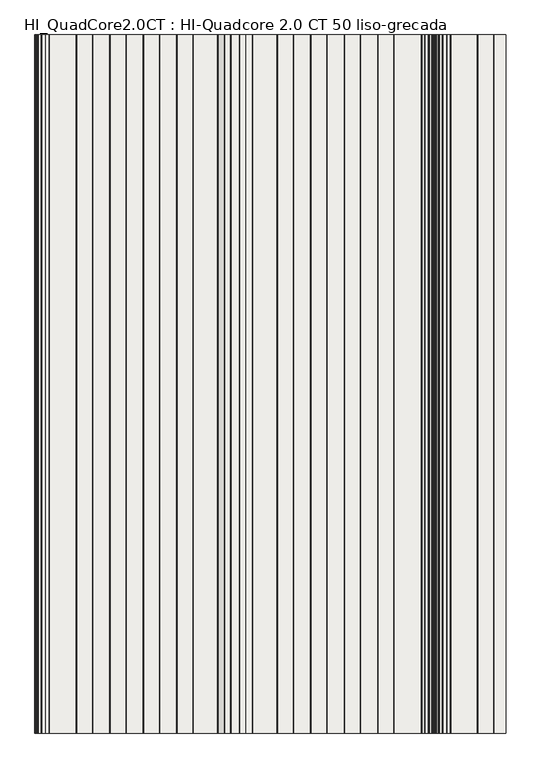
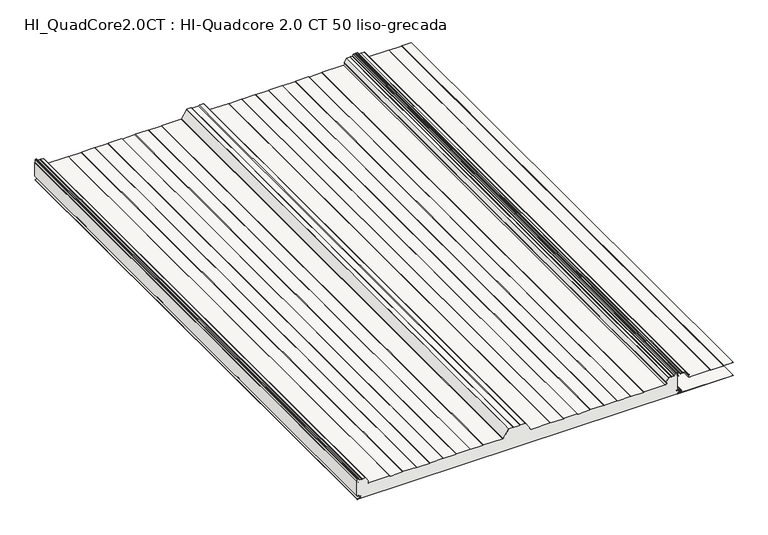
"""IFC4 building model written with IfcOpenShell, lengths in millimetres: slab geometry, HI_QuadCore2.0CT : HI-Quadcore 2.0 CT 50 liso-grecada."""

from ifc_helpers import new_model, si_unit, point, frame, frame_2d, origin, place, context, project, spatial, polyline, circle_curve, trimmed, segment, composite_curve, outline, extrude, source, transform, mapped, element, save
from ifc_brep_helpers import plane_surface, cylinder_surface, revolved_surface, advanced_brep


def hi_quadcore2_0ct_hi_quadcore_2_0_ct_50_liso_grecada_af61549e(model_context):
    return source(origin(), model_context, "Body", "SolidModel", [
        advanced_brep(
        [(1155.1475465, 0.0, 65.7425833), (1151.3824194, 0.0, 67.9163804), (1150.0, 0.0, 67.9163804), (1150.0, 0.0, 16.239302), (1157.510215, 0.0, 16.239302), (1157.510215, 0.0, 15.4391074), (1153.6125693, 0.0, 15.4391074), (1152.4319301, 0.0, 14.2584682), (1153.4276302, 0.0, 13.0866965), (1161.8278581, 0.0, 11.7547343), (1161.7995989, 0.0, 4.4809044), (1151.8467032, 0.0, 2.9844289), (1152.0100062, 0.0, 0.8), (2297.9590685, 0.0, 0.8), (2299.3391392, 0.0, 2.1800708), (2302.5664905, 0.0, 5.8294074), (2310.7843221, 0.0, 6.8264698), (2310.7843299, 0.0, 9.4135286), (2300.8450446, 0.0, 10.6192254), (2297.8324398, 0.0, 14.0237344), (2297.2282701, 0.0, 15.44), (2292.7624398, 0.0, 15.44), (2292.7624398, 0.0, 16.239302), (2300.0, 0.0, 16.239302), (2300.0, 0.0, 67.9163804), (2298.8824194, 0.0, 67.9163804), (2295.1172924, 0.0, 65.7425833), (2294.7172924, 0.0, 66.4354036), (2298.5824194, 0.0, 68.6669358), (2298.5824194, 0.0, 78.1), (2297.4824194, 0.0, 79.2), (2293.8888221, 0.0, 79.2), (2292.8725546, 0.0, 78.5209518), (2291.0157992, 0.0, 74.0383476), (2288.8631598, 0.0, 72.6), (2282.1371875, 0.0, 72.6), (2280.4324194, 0.0, 71.8110374), (2278.7276514, 0.0, 72.6), (2269.4004541, 0.0, 72.6), (2268.4939153, 0.0, 72.1230469), (2259.1558806, 0.0, 58.5361221), (2259.356723, 0.0, 57.0692788), (2260.3070878, 0.0, 56.2744554), (2257.4852773, 0.0, 49.2), (2181.3816122, 0.0, 49.2), (2179.6495614, 0.0, 48.2), (2134.6152775, 0.0, 48.2), (2132.8832267, 0.0, 49.2), (2085.3816122, 0.0, 49.2), (2083.6495614, 0.0, 48.2), (2038.6152775, 0.0, 48.2), (2036.8832267, 0.0, 49.2), (1989.3816122, 0.0, 49.2), (1987.6495614, 0.0, 48.2), (1942.6152775, 0.0, 48.2), (1940.8832267, 0.0, 49.2), (1893.3816122, 0.0, 49.2), (1891.6495614, 0.0, 48.2), (1846.6152775, 0.0, 48.2), (1844.8832267, 0.0, 49.2), (1775.9029123, 0.0, 49.2), (1773.9344839, 0.0, 50.2833287), (1755.9445057, 0.0, 78.6885573), (1755.0152048, 0.0, 79.2), (1738.8816122, 0.0, 79.2), (1736.283536, 0.0, 77.7), (1713.9813029, 0.0, 77.7), (1711.3832267, 0.0, 79.2), (1695.2496341, 0.0, 79.2), (1694.3203331, 0.0, 78.6885573), (1676.330355, 0.0, 50.2833287), (1674.3619266, 0.0, 49.2), (1605.3816122, 0.0, 49.2), (1603.6495614, 0.0, 48.2), (1558.6152775, 0.0, 48.2), (1556.8832267, 0.0, 49.2), (1509.3816122, 0.0, 49.2), (1507.6495614, 0.0, 48.2), (1462.6152775, 0.0, 48.2), (1460.8832267, 0.0, 49.2), (1413.3816122, 0.0, 49.2), (1411.6495614, 0.0, 48.2), (1366.6152775, 0.0, 48.2), (1364.8832267, 0.0, 49.2), (1317.3816122, 0.0, 49.2), (1315.6495614, 0.0, 48.2), (1270.6152775, 0.0, 48.2), (1268.8832267, 0.0, 49.2), (1192.7795617, 0.0, 49.2), (1189.9577511, 0.0, 56.2744555), (1190.9081159, 0.0, 57.0692788), (1191.1089583, 0.0, 58.5361221), (1181.7709236, 0.0, 72.1230469), (1180.8643848, 0.0, 72.6), (1171.5371875, 0.0, 72.6), (1169.8324194, 0.0, 71.8110374), (1168.1276514, 0.0, 72.6), (1161.4016791, 0.0, 72.6), (1159.2490397, 0.0, 74.0383476), (1157.3922843, 0.0, 78.5209518), (1156.3760168, 0.0, 79.2), (1152.7824194, 0.0, 79.2), (1151.6824194, 0.0, 78.1), (1151.6824194, 0.0, 68.6669358), (1155.5475465, 0.0, 66.4354036), (1155.1475465, 2000.0, 65.7425833), (1155.5475465, 2000.0, 66.4354036), (1151.6824194, 2000.0, 68.6669358), (1151.6824194, 2000.0, 78.1), (1152.7824194, 2000.0, 79.2), (1156.3760168, 2000.0, 79.2), (1157.3922843, 2000.0, 78.5209518), (1159.2490397, 2000.0, 74.0383476), (1161.4016791, 2000.0, 72.6), (1168.1276514, 2000.0, 72.6), (1169.8324194, 2000.0, 71.8110374), (1171.5371875, 2000.0, 72.6), (1180.8643848, 2000.0, 72.6), (1181.7709236, 2000.0, 72.1230469), (1191.1089583, 2000.0, 58.5361221), (1190.9081159, 2000.0, 57.0692788), (1189.9577511, 2000.0, 56.2744555), (1192.7795617, 2000.0, 49.2), (1268.8832267, 2000.0, 49.2), (1270.6152775, 2000.0, 48.2), (1315.6495614, 2000.0, 48.2), (1317.3816122, 2000.0, 49.2), (1364.8832267, 2000.0, 49.2), (1366.6152775, 2000.0, 48.2), (1411.6495614, 2000.0, 48.2), (1413.3816122, 2000.0, 49.2), (1460.8832267, 2000.0, 49.2), (1462.6152775, 2000.0, 48.2), (1507.6495614, 2000.0, 48.2), (1509.3816122, 2000.0, 49.2), (1556.8832267, 2000.0, 49.2), (1558.6152775, 2000.0, 48.2), (1603.6495614, 2000.0, 48.2), (1605.3816122, 2000.0, 49.2), (1674.3619266, 2000.0, 49.2), (1676.330355, 2000.0, 50.2833287), (1694.3203331, 2000.0, 78.6885573), (1695.2496341, 2000.0, 79.2), (1711.3832267, 2000.0, 79.2), (1713.9813029, 2000.0, 77.7), (1736.283536, 2000.0, 77.7), (1738.8816122, 2000.0, 79.2), (1755.0152048, 2000.0, 79.2), (1755.9445057, 2000.0, 78.6885573), (1773.9344839, 2000.0, 50.2833287), (1775.9029123, 2000.0, 49.2), (1844.8832267, 2000.0, 49.2), (1846.6152775, 2000.0, 48.2), (1891.6495614, 2000.0, 48.2), (1893.3816122, 2000.0, 49.2), (1940.8832267, 2000.0, 49.2), (1942.6152775, 2000.0, 48.2), (1987.6495614, 2000.0, 48.2), (1989.3816122, 2000.0, 49.2), (2036.8832267, 2000.0, 49.2), (2038.6152775, 2000.0, 48.2), (2083.6495614, 2000.0, 48.2), (2085.3816122, 2000.0, 49.2), (2132.8832267, 2000.0, 49.2), (2134.6152775, 2000.0, 48.2), (2179.6495614, 2000.0, 48.2), (2181.3816122, 2000.0, 49.2), (2257.4852773, 2000.0, 49.2), (2260.3070878, 2000.0, 56.2744554), (2259.356723, 2000.0, 57.0692788), (2259.1558806, 2000.0, 58.5361221), (2268.4939153, 2000.0, 72.1230469), (2269.4004541, 2000.0, 72.6), (2278.7276514, 2000.0, 72.6), (2280.4324194, 2000.0, 71.8110374), (2282.1371875, 2000.0, 72.6), (2288.8631598, 2000.0, 72.6), (2291.0157992, 2000.0, 74.0383476), (2292.8725546, 2000.0, 78.5209518), (2293.8888221, 2000.0, 79.2), (2297.4824194, 2000.0, 79.2), (2298.5824194, 2000.0, 78.1), (2298.5824194, 2000.0, 68.6669358), (2294.7172924, 2000.0, 66.4354036), (2295.1172924, 2000.0, 65.7425833), (2298.8824194, 2000.0, 67.9163804), (2300.0, 2000.0, 67.9163804), (2300.0, 2000.0, 16.239302), (2292.7624398, 2000.0, 16.239302), (2292.7624398, 2000.0, 15.44), (2297.2282701, 2000.0, 15.44), (2297.8324398, 2000.0, 14.0237344), (2300.8450446, 2000.0, 10.6192254), (2310.7843299, 2000.0, 9.4135286), (2310.7843221, 2000.0, 6.8264698), (2302.5664905, 2000.0, 5.8294074), (2299.3391392, 2000.0, 2.1800708), (2297.9590685, 2000.0, 0.8), (1152.0100062, 2000.0, 0.8), (1151.8467032, 2000.0, 2.9844289), (1161.7995989, 2000.0, 4.4809044), (1161.8278581, 2000.0, 11.7547343), (1153.4273037, 2000.0, 13.0846342), (1152.4319301, 2000.0, 14.2584682), (1153.6125693, 2000.0, 15.4391074), (1157.510215, 2000.0, 15.4391074), (1157.510215, 2000.0, 16.239302), (1150.0, 2000.0, 16.239302), (1150.0, 2000.0, 67.9163804), (1151.3824194, 2000.0, 67.9163804)],
        [
            (0, 1),
            (1, 2),
            (2, 3),
            (3, 4),
            (4, 5),
            (5, 6),
            (6, 7, circle_curve(frame((1153.6125693, 0.0, 14.2584682), z_axis=(0.0, -1.0, 0.0), x_axis=(1.0, 0.0, 0.0)), 1.1806391)),
            (7, 8, circle_curve(frame((1153.6121809, 0.0, 14.2524448), z_axis=(0.0, -1.0, 0.0), x_axis=(1.0, 0.0, 0.0)), 1.1802661)),
            (8, 9),
            (9, 10, circle_curve(frame((1161.2524398, 0.0, 8.12), z_axis=(0.0, 1.0, 0.0), x_axis=(1.0, 0.0, 0.0)), 3.68)),
            (10, 11),
            (11, 12, circle_curve(frame((1152.0100062, 0.0, 1.8983185), z_axis=(0.0, -1.0, 0.0), x_axis=(1.0, 0.0, 0.0)), 1.0983185)),
            (12, 13),
            (13, 14, circle_curve(frame((2297.9590685, 0.0, 2.1800708), z_axis=(0.0, -1.0, 0.0), x_axis=(1.0, 0.0, 0.0)), 1.3800708)),
            (14, 15, circle_curve(frame((2303.0160638, 0.0, 2.1800708), z_axis=(0.0, 1.0, 0.0), x_axis=(1.0, 0.0, 0.0)), 3.6769246)),
            (15, 16),
            (16, 17, circle_curve(frame((2310.5224398, 0.0, 8.12), z_axis=(0.0, -1.0, 0.0), x_axis=(1.0, 0.0, 0.0)), 1.3197737)),
            (17, 18),
            (18, 19, circle_curve(frame((2301.2624398, 0.0, 14.0237344), z_axis=(0.0, 1.0, 0.0), x_axis=(1.0, 0.0, 0.0)), 3.43)),
            (19, 20, circle_curve(frame((2295.8703839, 0.0, 14.0237344), z_axis=(0.0, -1.0, 0.0), x_axis=(1.0, 0.0, 0.0)), 1.9620559)),
            (20, 21),
            (21, 22),
            (22, 23),
            (23, 24),
            (24, 25),
            (25, 26),
            (26, 27),
            (27, 28),
            (28, 29),
            (29, 30, circle_curve(frame((2297.4824194, 0.0, 78.1), z_axis=(0.0, -1.0, 0.0), x_axis=(1.0, 0.0, 0.0)), 1.1)),
            (30, 31),
            (31, 32, circle_curve(frame((2293.8888221, 0.0, 78.1), z_axis=(0.0, -1.0, 0.0), x_axis=(1.0, 0.0, 0.0)), 1.1)),
            (32, 33),
            (33, 34, circle_curve(frame((2288.8631598, 0.0, 74.93), z_axis=(0.0, 1.0, 0.0), x_axis=(1.0, 0.0, 0.0)), 2.33)),
            (34, 35),
            (35, 36),
            (36, 37),
            (37, 38),
            (38, 39, circle_curve(frame((2269.4004541, 0.0, 71.5), z_axis=(0.0, -1.0, 0.0), x_axis=(1.0, 0.0, 0.0)), 1.1)),
            (39, 40),
            (40, 41, circle_curve(frame((2260.0624194, 0.0, 57.9130753), z_axis=(0.0, -1.0, 0.0), x_axis=(1.0, 0.0, 0.0)), 1.1)),
            (41, 42),
            (42, 43, circle_curve(frame((2257.4852773, 0.0, 53.3), z_axis=(0.0, 1.0, 0.0), x_axis=(1.0, 0.0, 0.0)), 4.1)),
            (43, 44),
            (44, 45),
            (45, 46),
            (46, 47),
            (47, 48),
            (48, 49),
            (49, 50),
            (50, 51),
            (51, 52),
            (52, 53),
            (53, 54),
            (54, 55),
            (55, 56),
            (56, 57),
            (57, 58),
            (58, 59),
            (59, 60),
            (60, 61, circle_curve(frame((1775.9029123, 0.0, 51.53), z_axis=(0.0, 1.0, 0.0), x_axis=(1.0, 0.0, 0.0)), 2.33)),
            (61, 62),
            (62, 63, circle_curve(frame((1755.0152048, 0.0, 78.1), z_axis=(0.0, -1.0, 0.0), x_axis=(1.0, 0.0, 0.0)), 1.1)),
            (63, 64),
            (64, 65),
            (65, 66),
            (66, 67),
            (67, 68),
            (68, 69, circle_curve(frame((1695.2496341, 0.0, 78.1), z_axis=(0.0, -1.0, 0.0), x_axis=(1.0, 0.0, 0.0)), 1.1)),
            (69, 70),
            (70, 71, circle_curve(frame((1674.3619266, 0.0, 51.53), z_axis=(0.0, 1.0, 0.0), x_axis=(1.0, 0.0, 0.0)), 2.33)),
            (71, 72),
            (72, 73),
            (73, 74),
            (74, 75),
            (75, 76),
            (76, 77),
            (77, 78),
            (78, 79),
            (79, 80),
            (80, 81),
            (81, 82),
            (82, 83),
            (83, 84),
            (84, 85),
            (85, 86),
            (86, 87),
            (87, 88),
            (88, 89, circle_curve(frame((1192.7795617, 0.0, 53.3), z_axis=(0.0, 1.0, 0.0), x_axis=(1.0, 0.0, 0.0)), 4.1)),
            (89, 90),
            (90, 91, circle_curve(frame((1190.2024195, 0.0, 57.9130752), z_axis=(0.0, -1.0, 0.0), x_axis=(1.0, 0.0, 0.0)), 1.1)),
            (91, 92),
            (92, 93, circle_curve(frame((1180.8643848, 0.0, 71.5), z_axis=(0.0, -1.0, 0.0), x_axis=(1.0, 0.0, 0.0)), 1.1)),
            (93, 94),
            (94, 95),
            (95, 96),
            (96, 97),
            (97, 98, circle_curve(frame((1161.4016791, 0.0, 74.93), z_axis=(0.0, 1.0, 0.0), x_axis=(1.0, 0.0, 0.0)), 2.33)),
            (98, 99),
            (99, 100, circle_curve(frame((1156.3760168, 0.0, 78.1), z_axis=(0.0, -1.0, 0.0), x_axis=(1.0, 0.0, 0.0)), 1.1)),
            (100, 101),
            (101, 102, circle_curve(frame((1152.7824194, 0.0, 78.1), z_axis=(0.0, -1.0, 0.0), x_axis=(1.0, 0.0, 0.0)), 1.1)),
            (102, 103),
            (103, 104),
            (104, 0),
            (105, 106),
            (106, 107),
            (107, 108),
            (108, 109, circle_curve(frame((1152.7824194, 2000.0, 78.1), z_axis=(0.0, 1.0, 0.0), x_axis=(1.0, 0.0, 0.0)), 1.1)),
            (109, 110),
            (110, 111, circle_curve(frame((1156.3760168, 2000.0, 78.1), z_axis=(0.0, 1.0, 0.0), x_axis=(1.0, 0.0, 0.0)), 1.1)),
            (111, 112),
            (112, 113, circle_curve(frame((1161.4016791, 2000.0, 74.93), z_axis=(0.0, -1.0, 0.0), x_axis=(1.0, 0.0, 0.0)), 2.33)),
            (113, 114),
            (114, 115),
            (115, 116),
            (116, 117),
            (117, 118, circle_curve(frame((1180.8643848, 2000.0, 71.5), z_axis=(0.0, 1.0, 0.0), x_axis=(1.0, 0.0, 0.0)), 1.1)),
            (118, 119),
            (119, 120, circle_curve(frame((1190.2024195, 2000.0, 57.9130752), z_axis=(0.0, 1.0, 0.0), x_axis=(1.0, 0.0, 0.0)), 1.1)),
            (120, 121),
            (121, 122, circle_curve(frame((1192.7795617, 2000.0, 53.3), z_axis=(0.0, -1.0, 0.0), x_axis=(1.0, 0.0, 0.0)), 4.1)),
            (122, 123),
            (123, 124),
            (124, 125),
            (125, 126),
            (126, 127),
            (127, 128),
            (128, 129),
            (129, 130),
            (130, 131),
            (131, 132),
            (132, 133),
            (133, 134),
            (134, 135),
            (135, 136),
            (136, 137),
            (137, 138),
            (138, 139),
            (139, 140, circle_curve(frame((1674.3619266, 2000.0, 51.53), z_axis=(0.0, -1.0, 0.0), x_axis=(1.0, 0.0, 0.0)), 2.33)),
            (140, 141),
            (141, 142, circle_curve(frame((1695.2496341, 2000.0, 78.1), z_axis=(0.0, 1.0, 0.0), x_axis=(1.0, 0.0, 0.0)), 1.1)),
            (142, 143),
            (143, 144),
            (144, 145),
            (145, 146),
            (146, 147),
            (147, 148, circle_curve(frame((1755.0152048, 2000.0, 78.1), z_axis=(0.0, 1.0, 0.0), x_axis=(1.0, 0.0, 0.0)), 1.1)),
            (148, 149),
            (149, 150, circle_curve(frame((1775.9029123, 2000.0, 51.53), z_axis=(0.0, -1.0, 0.0), x_axis=(1.0, 0.0, 0.0)), 2.33)),
            (150, 151),
            (151, 152),
            (152, 153),
            (153, 154),
            (154, 155),
            (155, 156),
            (156, 157),
            (157, 158),
            (158, 159),
            (159, 160),
            (160, 161),
            (161, 162),
            (162, 163),
            (163, 164),
            (164, 165),
            (165, 166),
            (166, 167),
            (167, 168, circle_curve(frame((2257.4852773, 2000.0, 53.3), z_axis=(0.0, -1.0, 0.0), x_axis=(1.0, 0.0, 0.0)), 4.1)),
            (168, 169),
            (169, 170, circle_curve(frame((2260.0624194, 2000.0, 57.9130753), z_axis=(0.0, 1.0, 0.0), x_axis=(1.0, 0.0, 0.0)), 1.1)),
            (170, 171),
            (171, 172, circle_curve(frame((2269.4004541, 2000.0, 71.5), z_axis=(0.0, 1.0, 0.0), x_axis=(1.0, 0.0, 0.0)), 1.1)),
            (172, 173),
            (173, 174),
            (174, 175),
            (175, 176),
            (176, 177, circle_curve(frame((2288.8631598, 2000.0, 74.93), z_axis=(0.0, -1.0, 0.0), x_axis=(1.0, 0.0, 0.0)), 2.33)),
            (177, 178),
            (178, 179, circle_curve(frame((2293.8888221, 2000.0, 78.1), z_axis=(0.0, 1.0, 0.0), x_axis=(1.0, 0.0, 0.0)), 1.1)),
            (179, 180),
            (180, 181, circle_curve(frame((2297.4824194, 2000.0, 78.1), z_axis=(0.0, 1.0, 0.0), x_axis=(1.0, 0.0, 0.0)), 1.1)),
            (181, 182),
            (182, 183),
            (183, 184),
            (184, 185),
            (185, 186),
            (186, 187),
            (187, 188),
            (188, 189),
            (189, 190),
            (190, 191, circle_curve(frame((2295.8703839, 2000.0, 14.0237344), z_axis=(0.0, 1.0, 0.0), x_axis=(1.0, 0.0, 0.0)), 1.9620559)),
            (191, 192, circle_curve(frame((2301.2624398, 2000.0, 14.0237344), z_axis=(0.0, -1.0, 0.0), x_axis=(1.0, 0.0, 0.0)), 3.43)),
            (192, 193),
            (193, 194, circle_curve(frame((2310.5224398, 2000.0, 8.12), z_axis=(0.0, 1.0, 0.0), x_axis=(1.0, 0.0, 0.0)), 1.3197737)),
            (194, 195),
            (195, 196, circle_curve(frame((2303.0160638, 2000.0, 2.1800708), z_axis=(0.0, -1.0, 0.0), x_axis=(1.0, 0.0, 0.0)), 3.6769246)),
            (196, 197, circle_curve(frame((2297.9590685, 2000.0, 2.1800708), z_axis=(0.0, 1.0, 0.0), x_axis=(1.0, 0.0, 0.0)), 1.3800708)),
            (197, 198),
            (198, 199, circle_curve(frame((1152.0100062, 2000.0, 1.8983185), z_axis=(0.0, 1.0, 0.0), x_axis=(1.0, 0.0, 0.0)), 1.0983185)),
            (199, 200),
            (200, 201, circle_curve(frame((1161.2524398, 2000.0, 8.12), z_axis=(0.0, -1.0, 0.0), x_axis=(1.0, 0.0, 0.0)), 3.68)),
            (201, 202),
            (202, 203, circle_curve(frame((1153.6121809, 2000.0, 14.2524448), z_axis=(0.0, 1.0, 0.0), x_axis=(1.0, 0.0, 0.0)), 1.1802661)),
            (203, 204, circle_curve(frame((1153.6125693, 2000.0, 14.2584682), z_axis=(0.0, 1.0, 0.0), x_axis=(1.0, 0.0, 0.0)), 1.1806391)),
            (204, 205),
            (205, 206),
            (206, 207),
            (207, 208),
            (208, 209),
            (209, 105),
            (0, 105),
            (209, 1),
            (208, 2),
            (207, 3),
            (186, 24),
            (23, 187),
            (185, 25),
            (184, 26),
            (183, 27),
            (182, 28),
            (181, 29),
            (180, 30),
            (179, 31),
            (178, 32),
            (177, 33),
            (176, 34),
            (175, 35),
            (174, 36),
            (173, 37),
            (172, 38),
            (171, 39),
            (170, 40),
            (169, 41),
            (168, 42),
            (167, 43),
            (166, 44),
            (165, 45),
            (164, 46),
            (163, 47),
            (162, 48),
            (161, 49),
            (160, 50),
            (159, 51),
            (158, 52),
            (157, 53),
            (156, 54),
            (155, 55),
            (154, 56),
            (153, 57),
            (152, 58),
            (151, 59),
            (150, 60),
            (149, 61),
            (148, 62),
            (147, 63),
            (146, 64),
            (145, 65),
            (144, 66),
            (143, 67),
            (142, 68),
            (141, 69),
            (140, 70),
            (139, 71),
            (138, 72),
            (137, 73),
            (136, 74),
            (135, 75),
            (134, 76),
            (133, 77),
            (132, 78),
            (131, 79),
            (130, 80),
            (129, 81),
            (128, 82),
            (127, 83),
            (126, 84),
            (125, 85),
            (124, 86),
            (123, 87),
            (122, 88),
            (121, 89),
            (120, 90),
            (119, 91),
            (118, 92),
            (117, 93),
            (116, 94),
            (115, 95),
            (114, 96),
            (113, 97),
            (112, 98),
            (111, 99),
            (110, 100),
            (109, 101),
            (108, 102),
            (107, 103),
            (106, 104),
            (22, 188),
            (206, 4),
            (205, 5),
            (204, 6),
            (203, 7),
            (202, 8),
            (201, 9),
            (200, 10),
            (199, 11),
            (198, 12),
            (197, 13),
            (196, 14),
            (195, 15),
            (194, 16),
            (193, 17),
            (192, 18),
            (191, 19),
            (190, 20),
            (189, 21),
        ],
        [
            plane_surface(frame((1151.3824194, 0.0, 67.9163804), z_axis=(0.0, -1.0, 0.0), x_axis=(-0.8660254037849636, 0.0, 0.4999999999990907))),
            plane_surface(frame((1151.3824194, 2000.0, 67.9163804), z_axis=(0.0, 1.0, 0.0), x_axis=(0.8660254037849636, 0.0, -0.4999999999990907))),
            plane_surface(frame((1155.1475465, 0.0, 65.7425833), z_axis=(0.4999999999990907, 0.0, 0.8660254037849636), x_axis=(0.0, 1.0, 0.0))),
            plane_surface(frame((1151.3824194, 0.0, 67.9163804), z_axis=(0.0, 0.0, 1.0), x_axis=(0.0, 1.0, 0.0))),
            plane_surface(frame((1150.0, 0.0, 67.9163804), z_axis=(-1.0, 0.0, 0.0), x_axis=(0.0, 1.0, 0.0))),
            plane_surface(frame((2300.0, 0.0, 40.0), z_axis=(1.0, 0.0, 0.0), x_axis=(0.0, 1.0, 0.0))),
            plane_surface(frame((2300.0, 0.0, 67.9163804), z_axis=(0.0, 0.0, 1.0), x_axis=(0.0, 1.0, 0.0))),
            plane_surface(frame((2298.8824194, 0.0, 67.9163804), z_axis=(-0.4999999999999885, 0.0, 0.8660254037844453), x_axis=(0.0, 1.0, 0.0))),
            plane_surface(frame((2295.1172924, 0.0, 65.7425833), z_axis=(0.8660254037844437, 0.0, 0.49999999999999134), x_axis=(0.0, 1.0, 0.0))),
            plane_surface(frame((2294.7172924, 0.0, 66.4354036), z_axis=(0.4999999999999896, 0.0, -0.8660254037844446), x_axis=(0.0, 1.0, 0.0))),
            plane_surface(frame((2298.5824194, 0.0, 68.6669358), z_axis=(1.0, 0.0, 0.0), x_axis=(0.0, 1.0, 0.0))),
            cylinder_surface(frame((2297.4824194, 2000.0, 78.1), z_axis=(0.0, -1.0, 0.0), x_axis=(1.0, 0.0, 0.0)), 1.1),
            plane_surface(frame((2297.4824194, 0.0, 79.2), z_axis=(0.0, 0.0, 1.0), x_axis=(0.0, 1.0, 0.0))),
            cylinder_surface(frame((2293.8888221, 2000.0, 78.1), z_axis=(0.0, -1.0, 0.0), x_axis=(1.0, 0.0, 0.0)), 1.1),
            plane_surface(frame((2292.8725546, 0.0, 78.5209518), z_axis=(-0.9238795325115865, 0.0, 0.3826834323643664), x_axis=(0.0, 1.0, 0.0))),
            revolved_surface(polyline([(2291.1931598, 2000.0, 74.93), (2291.1931598, 0.0, 74.93)]), (2288.8631598, 2000.0, 74.93), (0.0, 1.0, 0.0)),
            plane_surface(frame((2288.8631598, 0.0, 72.6), z_axis=(0.0, 0.0, 1.0), x_axis=(0.0, 1.0, 0.0))),
            plane_surface(frame((2282.1371875, 0.0, 72.6), z_axis=(-0.4199999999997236, 0.0, 0.9075241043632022), x_axis=(0.0, 1.0, 0.0))),
            plane_surface(frame((2280.4324194, 0.0, 71.8110374), z_axis=(0.42000000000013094, 0.0, 0.9075241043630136), x_axis=(0.0, 1.0, 0.0))),
            plane_surface(frame((2278.7276514, 0.0, 72.6), z_axis=(0.0, 0.0, 1.0), x_axis=(0.0, 1.0, 0.0))),
            cylinder_surface(frame((2269.4004541, 2000.0, 71.5), z_axis=(0.0, -1.0, 0.0), x_axis=(1.0, 0.0, 0.0)), 1.1),
            plane_surface(frame((2268.4939153, 0.0, 72.1230469), z_axis=(-0.824126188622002, 0.0, 0.5664062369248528), x_axis=(0.0, 1.0, 0.0))),
            cylinder_surface(frame((2260.0624194, 2000.0, 57.9130753), z_axis=(0.0, -1.0, 0.0), x_axis=(1.0, 0.0, 0.0)), 1.1),
            plane_surface(frame((2259.356723, 0.0, 57.0692788), z_axis=(-0.6415422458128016, 0.0, -0.7670877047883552), x_axis=(0.0, 1.0, 0.0))),
            revolved_surface(polyline([(2261.5852772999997, 2000.0, 53.3), (2261.5852772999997, 0.0, 53.3)]), (2257.4852773, 2000.0, 53.3), (0.0, 1.0, 0.0)),
            plane_surface(frame((2257.4852773, 0.0, 49.2), z_axis=(0.0, 0.0, 1.0), x_axis=(0.0, 1.0, 0.0))),
            plane_surface(frame((2181.3816122, 0.0, 49.2), z_axis=(-0.4999999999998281, 0.0, 0.866025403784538), x_axis=(0.0, 1.0, 0.0))),
            plane_surface(frame((2179.6495614, 0.0, 48.2), z_axis=(0.0, 0.0, 1.0), x_axis=(0.0, 1.0, 0.0))),
            plane_surface(frame((2134.6152775, 0.0, 48.2), z_axis=(0.499999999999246, 0.0, 0.866025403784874), x_axis=(0.0, 1.0, 0.0))),
            plane_surface(frame((2132.8832267, 0.0, 49.2), z_axis=(0.0, 0.0, 1.0), x_axis=(0.0, 1.0, 0.0))),
            plane_surface(frame((2085.3816122, 0.0, 49.2), z_axis=(-0.49999999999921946, 0.0, 0.8660254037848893), x_axis=(0.0, 1.0, 0.0))),
            plane_surface(frame((2083.6495614, 0.0, 48.2), z_axis=(0.0, 0.0, 1.0), x_axis=(0.0, 1.0, 0.0))),
            plane_surface(frame((2038.6152775, 0.0, 48.2), z_axis=(0.4999999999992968, 0.0, 0.8660254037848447), x_axis=(0.0, 1.0, 0.0))),
            plane_surface(frame((2036.8832267, 0.0, 49.2), z_axis=(0.0, 0.0, 1.0), x_axis=(0.0, 1.0, 0.0))),
            plane_surface(frame((1989.3816122, 0.0, 49.2), z_axis=(-0.4999999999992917, 0.0, 0.8660254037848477), x_axis=(0.0, 1.0, 0.0))),
            plane_surface(frame((1987.6495614, 0.0, 48.2), z_axis=(0.0, 0.0, 1.0), x_axis=(0.0, 1.0, 0.0))),
            plane_surface(frame((1942.6152775, 0.0, 48.2), z_axis=(0.49999999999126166, 0.0, 0.8660254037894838), x_axis=(0.0, 1.0, 0.0))),
            plane_surface(frame((1940.8832267, 0.0, 49.2), z_axis=(0.0, 0.0, 1.0), x_axis=(0.0, 1.0, 0.0))),
            plane_surface(frame((1893.3816122, 0.0, 49.2), z_axis=(-0.5000000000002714, 0.0, 0.8660254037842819), x_axis=(0.0, 1.0, 0.0))),
            plane_surface(frame((1891.6495614, 0.0, 48.2), z_axis=(0.0, 0.0, 1.0), x_axis=(0.0, 1.0, 0.0))),
            plane_surface(frame((1846.6152775, 0.0, 48.2), z_axis=(0.5000000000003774, 0.0, 0.8660254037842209), x_axis=(0.0, 1.0, 0.0))),
            plane_surface(frame((1844.8832267, 0.0, 49.2), z_axis=(0.0, 0.0, 1.0), x_axis=(0.0, 1.0, 0.0))),
            revolved_surface(polyline([(1778.2329123, 2000.0, 51.53), (1778.2329123, 0.0, 51.53)]), (1775.9029123, 2000.0, 51.53), (0.0, 1.0, 0.0)),
            plane_surface(frame((1773.9344839, 0.0, 50.2833287), z_axis=(0.8448190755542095, 0.0, 0.5350520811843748), x_axis=(0.0, 1.0, 0.0))),
            cylinder_surface(frame((1755.0152048, 2000.0, 78.1), z_axis=(0.0, -1.0, 0.0), x_axis=(1.0, 0.0, 0.0)), 1.1),
            plane_surface(frame((1755.0152048, 0.0, 79.2), z_axis=(0.0, 0.0, 1.0), x_axis=(0.0, 1.0, 0.0))),
            plane_surface(frame((1738.8816122, 0.0, 79.2), z_axis=(-0.49999999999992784, 0.0, 0.8660254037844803), x_axis=(0.0, 1.0, 0.0))),
            plane_surface(frame((1736.283536, 0.0, 77.7), z_axis=(0.0, 0.0, 1.0), x_axis=(0.0, 1.0, 0.0))),
            plane_surface(frame((1713.9813029, 0.0, 77.7), z_axis=(0.5000000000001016, 0.0, 0.86602540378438), x_axis=(0.0, 1.0, 0.0))),
            plane_surface(frame((1711.3832267, 0.0, 79.2), z_axis=(0.0, 0.0, 1.0), x_axis=(0.0, 1.0, 0.0))),
            cylinder_surface(frame((1695.2496341, 2000.0, 78.1), z_axis=(0.0, -1.0, 0.0), x_axis=(1.0, 0.0, 0.0)), 1.1),
            plane_surface(frame((1694.3203331, 0.0, 78.6885573), z_axis=(-0.8448190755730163, 0.0, 0.5350520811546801), x_axis=(0.0, 1.0, 0.0))),
            revolved_surface(polyline([(1676.6919266, 2000.0, 51.53), (1676.6919266, 0.0, 51.53)]), (1674.3619266, 2000.0, 51.53), (0.0, 1.0, 0.0)),
            plane_surface(frame((1674.3619266, 0.0, 49.2), z_axis=(0.0, 0.0, 1.0), x_axis=(0.0, 1.0, 0.0))),
            plane_surface(frame((1605.3816122, 0.0, 49.2), z_axis=(-0.5000000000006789, 0.0, 0.8660254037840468), x_axis=(0.0, 1.0, 0.0))),
            plane_surface(frame((1603.6495614, 0.0, 48.2), z_axis=(0.0, 0.0, 1.0), x_axis=(0.0, 1.0, 0.0))),
            plane_surface(frame((1558.6152775, 0.0, 48.2), z_axis=(0.49999999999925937, 0.0, 0.8660254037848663), x_axis=(0.0, 1.0, 0.0))),
            plane_surface(frame((1556.8832267, 0.0, 49.2), z_axis=(0.0, 0.0, 1.0), x_axis=(0.0, 1.0, 0.0))),
            plane_surface(frame((1509.3816122, 0.0, 49.2), z_axis=(-0.500000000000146, 0.0, 0.8660254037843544), x_axis=(0.0, 1.0, 0.0))),
            plane_surface(frame((1507.6495614, 0.0, 48.2), z_axis=(0.0, 0.0, 1.0), x_axis=(0.0, 1.0, 0.0))),
            plane_surface(frame((1462.6152775, 0.0, 48.2), z_axis=(0.49999999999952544, 0.0, 0.8660254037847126), x_axis=(0.0, 1.0, 0.0))),
            plane_surface(frame((1460.8832267, 0.0, 49.2), z_axis=(0.0, 0.0, 1.0), x_axis=(0.0, 1.0, 0.0))),
            plane_surface(frame((1413.3816122, 0.0, 49.2), z_axis=(-0.4999999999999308, 0.0, 0.8660254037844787), x_axis=(0.0, 1.0, 0.0))),
            plane_surface(frame((1411.6495614, 0.0, 48.2), z_axis=(0.0, 0.0, 1.0), x_axis=(0.0, 1.0, 0.0))),
            plane_surface(frame((1366.6152775, 0.0, 48.2), z_axis=(0.500000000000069, 0.0, 0.866025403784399), x_axis=(0.0, 1.0, 0.0))),
            plane_surface(frame((1364.8832267, 0.0, 49.2), z_axis=(0.0, 0.0, 1.0), x_axis=(0.0, 1.0, 0.0))),
            plane_surface(frame((1317.3816122, 0.0, 49.2), z_axis=(-0.5000000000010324, 0.0, 0.8660254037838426), x_axis=(0.0, 1.0, 0.0))),
            plane_surface(frame((1315.6495614, 0.0, 48.2), z_axis=(0.0, 0.0, 1.0), x_axis=(0.0, 1.0, 0.0))),
            plane_surface(frame((1270.6152775, 0.0, 48.2), z_axis=(0.4999999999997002, 0.0, 0.8660254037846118), x_axis=(0.0, 1.0, 0.0))),
            plane_surface(frame((1268.8832267, 0.0, 49.2), z_axis=(0.0, 0.0, 1.0), x_axis=(0.0, 1.0, 0.0))),
            revolved_surface(polyline([(1196.8795616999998, 2000.0, 53.3), (1196.8795616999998, 0.0, 53.3)]), (1192.7795617, 2000.0, 53.3), (0.0, 1.0, 0.0)),
            plane_surface(frame((1189.9577511, 0.0, 56.2744555), z_axis=(0.6415422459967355, 0.0, -0.767087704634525), x_axis=(0.0, 1.0, 0.0))),
            cylinder_surface(frame((1190.2024195, 2000.0, 57.9130752), z_axis=(0.0, -1.0, 0.0), x_axis=(1.0, 0.0, 0.0)), 1.1),
            plane_surface(frame((1191.1089583, 0.0, 58.5361221), z_axis=(0.8241261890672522, 0.0, 0.5664062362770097), x_axis=(0.0, 1.0, 0.0))),
            cylinder_surface(frame((1180.8643848, 2000.0, 71.5), z_axis=(0.0, -1.0, 0.0), x_axis=(1.0, 0.0, 0.0)), 1.1),
            plane_surface(frame((1180.8643848, 0.0, 72.6), z_axis=(0.0, 0.0, 1.0), x_axis=(0.0, 1.0, 0.0))),
            plane_surface(frame((1171.5371875, 0.0, 72.6), z_axis=(-0.4199999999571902, 0.0, 0.9075241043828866), x_axis=(0.0, 1.0, 0.0))),
            plane_surface(frame((1169.8324194, 0.0, 71.8110374), z_axis=(0.4200000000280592, 0.0, 0.9075241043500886), x_axis=(0.0, 1.0, 0.0))),
            plane_surface(frame((1168.1276514, 0.0, 72.6), z_axis=(0.0, 0.0, 1.0), x_axis=(0.0, 1.0, 0.0))),
            revolved_surface(polyline([(1163.7316790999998, 2000.0, 74.93), (1163.7316790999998, 0.0, 74.93)]), (1161.4016791, 2000.0, 74.93), (0.0, 1.0, 0.0)),
            plane_surface(frame((1159.2490397, 0.0, 74.0383476), z_axis=(0.9238795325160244, 0.0, 0.3826834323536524), x_axis=(0.0, 1.0, 0.0))),
            cylinder_surface(frame((1156.3760168, 2000.0, 78.1), z_axis=(0.0, -1.0, 0.0), x_axis=(1.0, 0.0, 0.0)), 1.1),
            plane_surface(frame((1156.3760168, 0.0, 79.2), z_axis=(0.0, 0.0, 1.0), x_axis=(0.0, 1.0, 0.0))),
            cylinder_surface(frame((1152.7824194, 2000.0, 78.1), z_axis=(0.0, -1.0, 0.0), x_axis=(1.0, 0.0, 0.0)), 1.1),
            plane_surface(frame((1151.6824194, 0.0, 78.1), z_axis=(-1.0, 0.0, 0.0), x_axis=(0.0, 1.0, 0.0))),
            plane_surface(frame((1151.6824194, 0.0, 68.6669358), z_axis=(-0.49999999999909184, 0.0, -0.866025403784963), x_axis=(0.0, 1.0, 0.0))),
            plane_surface(frame((1155.5475465, 0.0, 66.4354036), z_axis=(-0.866025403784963, 0.0, 0.4999999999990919), x_axis=(0.0, 1.0, 0.0))),
            plane_surface(frame((1150.0, 0.0, 16.239302), z_axis=(0.0, 0.0, -1.0), x_axis=(0.0, 1.0, 0.0))),
            plane_surface(frame((1157.510215, 0.0, 16.239302), z_axis=(-1.0, 0.0, 0.0), x_axis=(0.0, 1.0, 0.0))),
            plane_surface(frame((1157.510215, 0.0, 15.4391074), z_axis=(0.0, 0.0, 1.0), x_axis=(0.0, 1.0, 0.0))),
            cylinder_surface(frame((1153.6125693, 2000.0, 14.2584682), z_axis=(0.0, -1.0, 0.0), x_axis=(1.0, 0.0, 0.0)), 1.1806391),
            cylinder_surface(frame((1153.6121809, 2000.0, 14.2524448), z_axis=(0.0, -1.0, 0.0), x_axis=(1.0, 0.0, 0.0)), 1.1802661),
            plane_surface(frame((1153.4273037, 0.0, 13.0846342), z_axis=(-0.1563636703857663, 0.0, -0.9876995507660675), x_axis=(0.0, 1.0, 0.0))),
            revolved_surface(polyline([(1164.9324398, 2000.0, 8.12), (1164.9324398, 0.0, 8.12)]), (1161.2524398, 2000.0, 8.12), (0.0, 1.0, 0.0)),
            plane_surface(frame((1161.7995989, 0.0, 4.4809044), z_axis=(-0.14868453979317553, 0.0, 0.9888846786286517), x_axis=(0.0, 1.0, 0.0))),
            cylinder_surface(frame((1152.0100062, 2000.0, 1.8983185), z_axis=(0.0, -1.0, 0.0), x_axis=(1.0, 0.0, 0.0)), 1.0983185),
            plane_surface(frame((1152.0100062, 0.0, 0.8), z_axis=(0.0, 0.0, -1.0), x_axis=(0.0, 1.0, 0.0))),
            cylinder_surface(frame((2297.9590685, 2000.0, 2.1800708), z_axis=(0.0, -1.0, 0.0), x_axis=(1.0, 0.0, 0.0)), 1.3800708),
            revolved_surface(polyline([(2306.6929884, 2000.0, 2.1800708), (2306.6929884, 0.0, 2.1800708)]), (2303.0160638, 2000.0, 2.1800708), (0.0, 1.0, 0.0)),
            plane_surface(frame((2302.5664905, 0.0, 5.8294074), z_axis=(0.12044584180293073, 0.0, -0.9927198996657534), x_axis=(0.0, 1.0, 0.0))),
            cylinder_surface(frame((2310.5224398, 2000.0, 8.12), z_axis=(0.0, -1.0, 0.0), x_axis=(1.0, 0.0, 0.0)), 1.3197737),
            plane_surface(frame((2310.7843299, 0.0, 9.4135286), z_axis=(0.12042339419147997, 0.0, 0.9927226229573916), x_axis=(0.0, 1.0, 0.0))),
            revolved_surface(polyline([(2304.6924397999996, 2000.0, 14.0237344), (2304.6924397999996, 0.0, 14.0237344)]), (2301.2624398, 2000.0, 14.0237344), (0.0, 1.0, 0.0)),
            cylinder_surface(frame((2295.8703839, 2000.0, 14.0237344), z_axis=(0.0, -1.0, 0.0), x_axis=(1.0, 0.0, 0.0)), 1.9620559),
            plane_surface(frame((2297.2282701, 0.0, 15.44), z_axis=(0.0, 0.0, 1.0), x_axis=(0.0, 1.0, 0.0))),
            plane_surface(frame((2292.7624398, 0.0, 15.44), z_axis=(1.0, 0.0, 0.0), x_axis=(0.0, 1.0, 0.0))),
        ],
        [
            (0, [[1, 2, 3, 4, 5, 6, 7, 8, 9, 10, 11, 12, 13, 14, 15, 16, 17, 18, 19, 20, 21, 22, 23, 24, 25, 26, 27, 28, 29, 30, 31, 32, 33, 34, 35, 36, 37, 38, 39, 40, 41, 42, 43, 44, 45, 46, 47, 48, 49, 50, 51, 52, 53, 54, 55, 56, 57, 58, 59, 60, 61, 62, 63, 64, 65, 66, 67, 68, 69, 70, 71, 72, 73, 74, 75, 76, 77, 78, 79, 80, 81, 82, 83, 84, 85, 86, 87, 88, 89, 90, 91, 92, 93, 94, 95, 96, 97, 98, 99, 100, 101, 102, 103, 104, 105]]),
            (1, [[106, 107, 108, 109, 110, 111, 112, 113, 114, 115, 116, 117, 118, 119, 120, 121, 122, 123, 124, 125, 126, 127, 128, 129, 130, 131, 132, 133, 134, 135, 136, 137, 138, 139, 140, 141, 142, 143, 144, 145, 146, 147, 148, 149, 150, 151, 152, 153, 154, 155, 156, 157, 158, 159, 160, 161, 162, 163, 164, 165, 166, 167, 168, 169, 170, 171, 172, 173, 174, 175, 176, 177, 178, 179, 180, 181, 182, 183, 184, 185, 186, 187, 188, 189, 190, 191, 192, 193, 194, 195, 196, 197, 198, 199, 200, 201, 202, 203, 204, 205, 206, 207, 208, 209, 210]]),
            (2, [[-1, 211, -210, 212]]),
            (3, [[-2, -212, -209, 213]]),
            (4, [[-213, -208, 214, -3]]),
            (5, [[215, -24, 216, -187]]),
            (6, [[-25, -215, -186, 217]]),
            (7, [[-26, -217, -185, 218]]),
            (8, [[-27, -218, -184, 219]]),
            (9, [[-28, -219, -183, 220]]),
            (10, [[-29, -220, -182, 221]]),
            (11, [[-30, -221, -181, 222]]),
            (12, [[-31, -222, -180, 223]]),
            (13, [[-32, -223, -179, 224]]),
            (14, [[-33, -224, -178, 225]]),
            (15, [[-34, -225, -177, 226]]),
            (16, [[-35, -226, -176, 227]]),
            (17, [[-36, -227, -175, 228]]),
            (18, [[-37, -228, -174, 229]]),
            (19, [[-38, -229, -173, 230]]),
            (20, [[-39, -230, -172, 231]]),
            (21, [[-40, -231, -171, 232]]),
            (22, [[-41, -232, -170, 233]]),
            (23, [[-42, -233, -169, 234]]),
            (24, [[-43, -234, -168, 235]]),
            (25, [[-44, -235, -167, 236]]),
            (26, [[-45, -236, -166, 237]]),
            (27, [[-46, -237, -165, 238]]),
            (28, [[-47, -238, -164, 239]]),
            (29, [[-48, -239, -163, 240]]),
            (30, [[-49, -240, -162, 241]]),
            (31, [[-50, -241, -161, 242]]),
            (32, [[-51, -242, -160, 243]]),
            (33, [[-52, -243, -159, 244]]),
            (34, [[-53, -244, -158, 245]]),
            (35, [[-54, -245, -157, 246]]),
            (36, [[-55, -246, -156, 247]]),
            (37, [[-56, -247, -155, 248]]),
            (38, [[-57, -248, -154, 249]]),
            (39, [[-58, -249, -153, 250]]),
            (40, [[-59, -250, -152, 251]]),
            (41, [[-60, -251, -151, 252]]),
            (42, [[-61, -252, -150, 253]]),
            (43, [[-62, -253, -149, 254]]),
            (44, [[-63, -254, -148, 255]]),
            (45, [[-64, -255, -147, 256]]),
            (46, [[-65, -256, -146, 257]]),
            (47, [[-66, -257, -145, 258]]),
            (48, [[-67, -258, -144, 259]]),
            (49, [[-68, -259, -143, 260]]),
            (50, [[-69, -260, -142, 261]]),
            (51, [[-70, -261, -141, 262]]),
            (52, [[-71, -262, -140, 263]]),
            (53, [[-72, -263, -139, 264]]),
            (54, [[-73, -264, -138, 265]]),
            (55, [[-74, -265, -137, 266]]),
            (56, [[-75, -266, -136, 267]]),
            (57, [[-76, -267, -135, 268]]),
            (58, [[-77, -268, -134, 269]]),
            (59, [[-78, -269, -133, 270]]),
            (60, [[-79, -270, -132, 271]]),
            (61, [[-80, -271, -131, 272]]),
            (62, [[-81, -272, -130, 273]]),
            (63, [[-82, -273, -129, 274]]),
            (64, [[-83, -274, -128, 275]]),
            (65, [[-84, -275, -127, 276]]),
            (66, [[-85, -276, -126, 277]]),
            (67, [[-86, -277, -125, 278]]),
            (68, [[-87, -278, -124, 279]]),
            (69, [[-88, -279, -123, 280]]),
            (70, [[-89, -280, -122, 281]]),
            (71, [[-90, -281, -121, 282]]),
            (72, [[-91, -282, -120, 283]]),
            (73, [[-92, -283, -119, 284]]),
            (74, [[-93, -284, -118, 285]]),
            (75, [[-94, -285, -117, 286]]),
            (76, [[-95, -286, -116, 287]]),
            (77, [[-96, -287, -115, 288]]),
            (78, [[-97, -288, -114, 289]]),
            (79, [[-98, -289, -113, 290]]),
            (80, [[-99, -290, -112, 291]]),
            (81, [[-100, -291, -111, 292]]),
            (82, [[-101, -292, -110, 293]]),
            (83, [[-102, -293, -109, 294]]),
            (84, [[-103, -294, -108, 295]]),
            (85, [[-104, -295, -107, 296]]),
            (86, [[-105, -296, -106, -211]]),
            (87, [[-216, -23, 297, -188]]),
            (87, [[-214, -207, 298, -4]]),
            (88, [[-5, -298, -206, 299]]),
            (89, [[-6, -299, -205, 300]]),
            (90, [[-7, -300, -204, 301]]),
            (91, [[-8, -301, -203, 302]]),
            (92, [[-9, -302, -202, 303]]),
            (93, [[-10, -303, -201, 304]]),
            (94, [[-11, -304, -200, 305]]),
            (95, [[-12, -305, -199, 306]]),
            (96, [[-13, -306, -198, 307]]),
            (97, [[-14, -307, -197, 308]]),
            (98, [[-15, -308, -196, 309]]),
            (99, [[-16, -309, -195, 310]]),
            (100, [[-17, -310, -194, 311]]),
            (101, [[-18, -311, -193, 312]]),
            (102, [[-19, -312, -192, 313]]),
            (103, [[-20, -313, -191, 314]]),
            (104, [[-21, -314, -190, 315]]),
            (105, [[-22, -315, -189, -297]]),
        ],
    ),
        advanced_brep(
        [(2303.6125412, 0.0, 16.239302), (2301.6320413, 0.0, 14.2588021), (2303.3026044, 0.0, 12.2960661), (2311.7027672, 0.0, 10.9645747), (2311.6806488, 0.0, 5.2720118), (2301.7277556, 0.0, 3.7755366), (2302.0100062, 0.0, 0.0), (2500.0, 0.0, 0.0), (2500.0, 0.0, 0.8), (2302.0100062, 0.0, 0.8), (2301.8467032, 0.0, 2.9844289), (2311.7995989, 0.0, 4.4809044), (2311.8278581, 0.0, 11.7547343), (2303.4279307, 0.0, 13.084535), (2302.4319301, 0.0, 14.2584682), (2303.6125693, 0.0, 15.4391074), (2307.510215, 0.0, 15.4391074), (2307.510215, 0.0, 16.239302), (2303.6125412, 2000.0, 16.239302), (2307.510215, 2000.0, 16.239302), (2307.510215, 2000.0, 15.4391074), (2303.6125693, 2000.0, 15.4391074), (2302.4319301, 2000.0, 14.2584682), (2303.4276302, 2000.0, 13.0866965), (2311.8278581, 2000.0, 11.7547343), (2311.7995989, 2000.0, 4.4809044), (2301.8467032, 2000.0, 2.9844289), (2302.0100062, 2000.0, 0.8), (2500.0, 2000.0, 0.8), (2500.0, 2000.0, 0.0), (2302.0100062, 2000.0, 0.0), (2301.7277556, 2000.0, 3.7755366), (2311.6806488, 2000.0, 5.2720118), (2311.7027672, 2000.0, 10.9645747), (2303.3028397, 2000.0, 12.2943753), (2301.6320413, 2000.0, 14.2588021)],
        [
            (0, 1, circle_curve(frame((2303.6125412, 0.0, 14.2588021), z_axis=(0.0, -1.0, 0.0), x_axis=(1.0, 0.0, 0.0)), 1.9804999)),
            (1, 2, circle_curve(frame((2303.612237, 0.0, 14.2519163), z_axis=(0.0, -1.0, 0.0), x_axis=(1.0, 0.0, 0.0)), 1.9802076)),
            (2, 3),
            (3, 4, circle_curve(frame((2311.2524398, 0.0, 8.12), z_axis=(0.0, 1.0, 0.0), x_axis=(1.0, 0.0, 0.0)), 2.88)),
            (4, 5),
            (5, 6, circle_curve(frame((2302.0100062, 0.0, 1.8983185), z_axis=(0.0, -1.0, 0.0), x_axis=(1.0, 0.0, 0.0)), 1.8983185)),
            (6, 7),
            (7, 8),
            (8, 9),
            (9, 10, circle_curve(frame((2302.0100062, 0.0, 1.8983185), z_axis=(0.0, 1.0, 0.0), x_axis=(1.0, 0.0, 0.0)), 1.0983185)),
            (10, 11),
            (11, 12, circle_curve(frame((2311.2524398, 0.0, 8.12), z_axis=(0.0, -1.0, 0.0), x_axis=(1.0, 0.0, 0.0)), 3.68)),
            (12, 13),
            (13, 14, circle_curve(frame((2303.6121809, 0.0, 14.2524448), z_axis=(0.0, 1.0, 0.0), x_axis=(1.0, 0.0, 0.0)), 1.1802661)),
            (14, 15, circle_curve(frame((2303.6125693, 0.0, 14.2584682), z_axis=(0.0, 1.0, 0.0), x_axis=(1.0, 0.0, 0.0)), 1.1806391)),
            (15, 16),
            (16, 17),
            (17, 0),
            (18, 19),
            (19, 20),
            (20, 21),
            (21, 22, circle_curve(frame((2303.6125693, 2000.0, 14.2584682), z_axis=(0.0, -1.0, 0.0), x_axis=(1.0, 0.0, 0.0)), 1.1806391)),
            (22, 23, circle_curve(frame((2303.6121809, 2000.0, 14.2524448), z_axis=(0.0, -1.0, 0.0), x_axis=(1.0, 0.0, 0.0)), 1.1802661)),
            (23, 24),
            (24, 25, circle_curve(frame((2311.2524398, 2000.0, 8.12), z_axis=(0.0, 1.0, 0.0), x_axis=(1.0, 0.0, 0.0)), 3.68)),
            (25, 26),
            (26, 27, circle_curve(frame((2302.0100062, 2000.0, 1.8983185), z_axis=(0.0, -1.0, 0.0), x_axis=(1.0, 0.0, 0.0)), 1.0983185)),
            (27, 28),
            (28, 29),
            (29, 30),
            (30, 31, circle_curve(frame((2302.0100062, 2000.0, 1.8983185), z_axis=(0.0, 1.0, 0.0), x_axis=(1.0, 0.0, 0.0)), 1.8983185)),
            (31, 32),
            (32, 33, circle_curve(frame((2311.2524398, 2000.0, 8.12), z_axis=(0.0, -1.0, 0.0), x_axis=(1.0, 0.0, 0.0)), 2.88)),
            (33, 34),
            (34, 35, circle_curve(frame((2303.612237, 2000.0, 14.2519163), z_axis=(0.0, 1.0, 0.0), x_axis=(1.0, 0.0, 0.0)), 1.9802076)),
            (35, 18, circle_curve(frame((2303.6125412, 2000.0, 14.2588021), z_axis=(0.0, 1.0, 0.0), x_axis=(1.0, 0.0, 0.0)), 1.9804999)),
            (0, 18),
            (35, 1),
            (34, 2),
            (33, 3),
            (32, 4),
            (31, 5),
            (30, 6),
            (29, 7),
            (27, 9),
            (8, 28),
            (26, 10),
            (25, 11),
            (24, 12),
            (23, 13),
            (22, 14),
            (21, 15),
            (20, 16),
            (19, 17),
        ],
        [
            plane_surface(frame((2305.5930411, 0.0, 14.2588021), z_axis=(0.0, -1.0, 0.0), x_axis=(0.0, 0.0, 1.0))),
            plane_surface(frame((2305.5930411, 2000.0, 14.2588021), z_axis=(0.0, 1.0, 0.0), x_axis=(0.0, 0.0, -1.0))),
            cylinder_surface(frame((2303.6125412, 2000.0, 14.2588021), z_axis=(0.0, -1.0, 0.0), x_axis=(1.0, 0.0, 0.0)), 1.9804999),
            cylinder_surface(frame((2303.612237, 2000.0, 14.2519163), z_axis=(0.0, -1.0, 0.0), x_axis=(1.0, 0.0, 0.0)), 1.9802076),
            plane_surface(frame((2303.3028397, 0.0, 12.2943753), z_axis=(-0.15636367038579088, 0.0, -0.9876995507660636), x_axis=(0.0, 1.0, 0.0))),
            revolved_surface(polyline([(2314.1324398, 2000.0, 8.12), (2314.1324398, 0.0, 8.12)]), (2311.2524398, 2000.0, 8.12), (0.0, 1.0, 0.0)),
            plane_surface(frame((2311.6806488, 0.0, 5.2720118), z_axis=(-0.14868453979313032, 0.0, 0.9888846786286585), x_axis=(0.0, 1.0, 0.0))),
            cylinder_surface(frame((2302.0100062, 2000.0, 1.8983185), z_axis=(0.0, -1.0, 0.0), x_axis=(1.0, 0.0, 0.0)), 1.8983185),
            plane_surface(frame((2302.0100062, 0.0, 0.0), z_axis=(0.0, 0.0, -1.0), x_axis=(0.0, 1.0, 0.0))),
            plane_surface(frame((3450.0, 0.0, 0.8), z_axis=(0.0, 0.0, 1.0), x_axis=(0.0, 1.0, 0.0))),
            revolved_surface(polyline([(2303.1083247, 2000.0, 1.8983185), (2303.1083247, 0.0, 1.8983185)]), (2302.0100062, 2000.0, 1.8983185), (0.0, 1.0, 0.0)),
            plane_surface(frame((2301.8467032, 0.0, 2.9844289), z_axis=(0.14868453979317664, 0.0, -0.9888846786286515), x_axis=(0.0, 1.0, 0.0))),
            cylinder_surface(frame((2311.2524398, 2000.0, 8.12), z_axis=(0.0, -1.0, 0.0), x_axis=(1.0, 0.0, 0.0)), 3.68),
            plane_surface(frame((2311.8278581, 0.0, 11.7547343), z_axis=(0.15636367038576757, 0.0, 0.9876995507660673), x_axis=(0.0, 1.0, 0.0))),
            revolved_surface(polyline([(2304.7924470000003, 2000.0, 14.2524448), (2304.7924470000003, 0.0, 14.2524448)]), (2303.6121809, 2000.0, 14.2524448), (0.0, 1.0, 0.0)),
            revolved_surface(polyline([(2304.7932084, 2000.0, 14.2584682), (2304.7932084, 0.0, 14.2584682)]), (2303.6125693, 2000.0, 14.2584682), (0.0, 1.0, 0.0)),
            plane_surface(frame((2303.6125693, 0.0, 15.4391074), z_axis=(0.0, 0.0, -1.0), x_axis=(0.0, 1.0, 0.0))),
            plane_surface(frame((2307.510215, 0.0, 15.4391074), z_axis=(1.0, 0.0, 0.0), x_axis=(0.0, 1.0, 0.0))),
            plane_surface(frame((2307.510215, 0.0, 16.239302), z_axis=(0.0, 0.0, 1.0), x_axis=(0.0, 1.0, 0.0))),
            plane_surface(frame((2500.0, 0.0, 27.9692099), z_axis=(1.0, 0.0, 0.0), x_axis=(0.0, 1.0, 0.0))),
        ],
        [
            (0, [[1, 2, 3, 4, 5, 6, 7, 8, 9, 10, 11, 12, 13, 14, 15, 16, 17, 18]]),
            (1, [[19, 20, 21, 22, 23, 24, 25, 26, 27, 28, 29, 30, 31, 32, 33, 34, 35, 36]]),
            (2, [[-1, 37, -36, 38]]),
            (3, [[-2, -38, -35, 39]]),
            (4, [[-3, -39, -34, 40]]),
            (5, [[-4, -40, -33, 41]]),
            (6, [[-5, -41, -32, 42]]),
            (7, [[-6, -42, -31, 43]]),
            (8, [[-43, -30, 44, -7]]),
            (9, [[45, -9, 46, -28]]),
            (10, [[-10, -45, -27, 47]]),
            (11, [[-11, -47, -26, 48]]),
            (12, [[-12, -48, -25, 49]]),
            (13, [[-13, -49, -24, 50]]),
            (14, [[-14, -50, -23, 51]]),
            (15, [[-15, -51, -22, 52]]),
            (16, [[-16, -52, -21, 53]]),
            (17, [[-17, -53, -20, 54]]),
            (18, [[-18, -54, -19, -37]]),
            (19, [[-8, -44, -29, -46]]),
        ],
    ),
        extrude(outline(composite_curve([segment(polyline([(67.9163804, 2301.3824194), (65.7425833, 2305.1475465), (66.4354036, 2305.5475465), (68.6669358, 2301.6824194), (78.1, 2301.6824194)]), True, "CONTINUOUS"), segment(trimmed(circle_curve(frame_2d((78.1, 2302.7824194)), 1.1), [point((78.1, 2301.6824194))], [point((79.2, 2302.7824194))], True, "CARTESIAN"), True, "CONTINUOUS"), segment(polyline([(79.2, 2302.7824194), (79.2, 2306.3760168)]), True, "CONTINUOUS"), segment(trimmed(circle_curve(frame_2d((78.1, 2306.3760168)), 1.1), [point((79.2, 2306.3760168))], [point((78.5209518, 2307.3922843))], True, "CARTESIAN"), True, "CONTINUOUS"), segment(polyline([(78.5209518, 2307.3922843), (74.0383476, 2309.2490397)]), True, "CONTINUOUS"), segment(trimmed(circle_curve(frame_2d((74.93, 2311.4016791)), 2.33), [point((74.0383476, 2309.2490397))], [point((72.6, 2311.4016791))], False, "CARTESIAN"), True, "CONTINUOUS"), segment(polyline([(72.6, 2311.4016791), (72.6, 2318.1276514), (71.8110374, 2319.8324194), (72.6, 2321.5371875), (72.6, 2330.8643848)]), True, "CONTINUOUS"), segment(trimmed(circle_curve(frame_2d((71.5, 2330.8643848)), 1.1), [point((72.6, 2330.8643848))], [point((72.1230469, 2331.7709236))], True, "CARTESIAN"), True, "CONTINUOUS"), segment(polyline([(72.1230469, 2331.7709236), (58.5361221, 2341.1089583)]), True, "CONTINUOUS"), segment(trimmed(circle_curve(frame_2d((57.9130752, 2340.2024195)), 1.1), [point((58.5361221, 2341.1089583))], [point((57.0692788, 2340.9081159))], True, "CARTESIAN"), True, "CONTINUOUS"), segment(polyline([(57.0692788, 2340.9081159), (56.2744555, 2339.9577511)]), True, "CONTINUOUS"), segment(trimmed(circle_curve(frame_2d((53.3, 2342.7795617)), 4.1), [point((56.2744555, 2339.9577511))], [point((49.2, 2342.7795617))], False, "CARTESIAN"), True, "CONTINUOUS"), segment(polyline([(49.2, 2342.7795617), (49.2, 2418.8832267), (48.2, 2420.6152775), (48.2, 2465.6495614), (49.2, 2467.3816122), (49.2, 2500.0), (50.0, 2500.0), (50.0, 2467.5691766)]), True, "CONTINUOUS"), segment(trimmed(circle_curve(frame_2d((48.5, 2467.5691766)), 1.5), [point((50.0, 2467.5691766))], [point((49.7990381, 2466.8191766))], False, "CARTESIAN"), True, "CONTINUOUS"), segment(polyline([(49.7990381, 2466.8191766), (49.0, 2465.435202), (49.0, 2420.8296369), (49.7990381, 2419.4456623)]), True, "CONTINUOUS"), segment(trimmed(circle_curve(frame_2d((48.5, 2418.6956623)), 1.5), [point((49.7990381, 2419.4456623))], [point((50.0, 2418.6956623))], False, "CARTESIAN"), True, "CONTINUOUS"), segment(polyline([(50.0, 2418.6956623), (50.0, 2342.7795617)]), True, "CONTINUOUS"), segment(trimmed(circle_curve(frame_2d((53.3, 2342.7795617)), 3.3), [point((50.0, 2342.7795617))], [point((55.6777166, 2340.4912296))], True, "CARTESIAN"), True, "CONTINUOUS"), segment(polyline([(55.6777166, 2340.4912296), (56.4556086, 2341.4213497)]), True, "CONTINUOUS"), segment(trimmed(circle_curve(frame_2d((57.9130752, 2340.2024195)), 1.9), [point((56.4556086, 2341.4213497))], [point((58.9892471, 2341.7682592))], False, "CARTESIAN"), True, "CONTINUOUS"), segment(polyline([(58.9892471, 2341.7682592), (72.5761719, 2332.4302246)]), True, "CONTINUOUS"), segment(trimmed(circle_curve(frame_2d((71.5, 2330.8643848)), 1.9), [point((72.5761719, 2332.4302246))], [point((73.4, 2330.8643848))], False, "CARTESIAN"), True, "CONTINUOUS"), segment(polyline([(73.4, 2330.8643848), (73.4, 2321.3610429), (72.6925567, 2319.8324194), (73.4, 2318.303796), (73.4, 2311.4016791)]), True, "CONTINUOUS"), segment(trimmed(circle_curve(frame_2d((74.93, 2311.4016791)), 1.53), [point((73.4, 2311.4016791))], [point((74.3444944, 2309.9881434))], True, "CARTESIAN"), True, "CONTINUOUS"), segment(polyline([(74.3444944, 2309.9881434), (78.8270985, 2308.1313879)]), True, "CONTINUOUS"), segment(trimmed(circle_curve(frame_2d((78.1, 2306.3760168)), 1.9), [point((78.8270985, 2308.1313879))], [point((80.0, 2306.3760168))], False, "CARTESIAN"), True, "CONTINUOUS"), segment(polyline([(80.0, 2306.3760168), (80.0, 2302.7824194)]), True, "CONTINUOUS"), segment(trimmed(circle_curve(frame_2d((78.1, 2302.7824194)), 1.9), [point((80.0, 2302.7824194))], [point((78.1, 2300.8824194))], False, "CARTESIAN"), True, "CONTINUOUS"), segment(polyline([(78.1, 2300.8824194), (68.7824058, 2300.8824194)]), True, "CONTINUOUS"), segment(trimmed(circle_curve(frame_2d((68.7824058, 2301.8824194)), 1.0), [point((68.7824058, 2300.8824194))], [point((67.9163804, 2301.3824194))], False, "CARTESIAN"), True, "CONTINUOUS")], self_intersect=False)), frame((0.0, 0.0, 0.0), z_axis=(0.0, 1.0, 0.0), x_axis=(0.0, 0.0, 1.0)), (0.0, 0.0, 1.0), 2000.0),
    ])


if __name__ == "__main__":
    model = new_model("IFC4")
    model_context = context("Model", 3, world=origin())
    ifc_project = project(units=[si_unit("LENGTHUNIT", "METRE", prefix="MILLI")], contexts=[model_context])
    site = spatial("IfcSite", under=ifc_project)
    building = spatial("IfcBuilding", under=site)
    placement = place(None, origin())
    hi_quadcore2_0ct_hi_quadcore_2_0_ct_50_liso_grecada_shape = hi_quadcore2_0ct_hi_quadcore_2_0_ct_50_liso_grecada_af61549e(model_context)
    element("IfcSlab", 1, ObjectType="HI_QuadCore2.0CT : HI-Quadcore 2.0 CT 50 liso-grecada", at=placement, inside=building, context=model_context, shape_type="MappedRepresentation", body=[
        mapped(hi_quadcore2_0ct_hi_quadcore_2_0_ct_50_liso_grecada_shape, transform((0.0, 0.0, 0.0), x_axis=(1.0, 0.0, 0.0), y_axis=(0.0, 1.0, 0.0), z_axis=(0.0, 0.0, 1.0))),
    ])
    save(model, "model.ifc")
